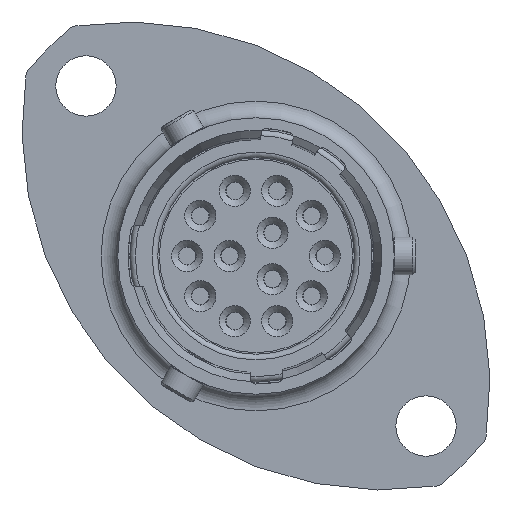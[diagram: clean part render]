
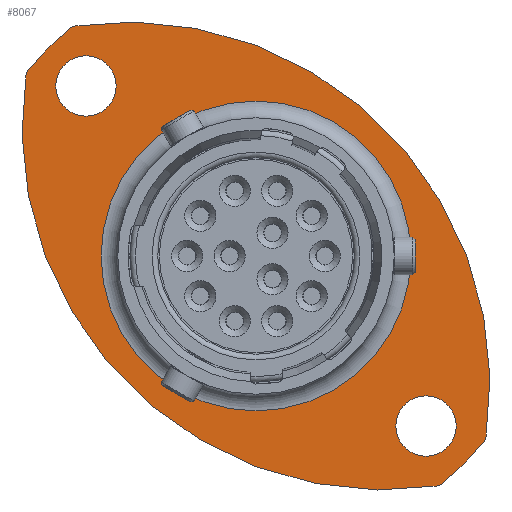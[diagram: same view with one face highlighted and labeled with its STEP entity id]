
A CAD part, left-side view. The second image highlights one B-rep face of the part: STEP entity #8067.
In plain terms, the highlighted planar face has unit normal (-1, 0, 0).
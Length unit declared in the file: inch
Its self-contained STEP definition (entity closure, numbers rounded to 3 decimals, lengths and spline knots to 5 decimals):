
#315=PLANE('',#9142);
#416=FACE_BOUND('',#1296,.T.);
#417=FACE_BOUND('',#1297,.T.);
#418=FACE_BOUND('',#1298,.T.);
#748=FACE_OUTER_BOUND('',#1295,.T.);
#1295=EDGE_LOOP('',(#6197,#6198,#6199,#6200));
#1296=EDGE_LOOP('',(#6201));
#1297=EDGE_LOOP('',(#6202));
#1298=EDGE_LOOP('',(#6203));
#2155=CIRCLE('',#9112,0.76772);
#2174=CIRCLE('',#9139,0.62303);
#2175=CIRCLE('',#9141,0.62303);
#2176=CIRCLE('',#9143,0.76772);
#2177=CIRCLE('',#9144,0.32854);
#2178=CIRCLE('',#9145,0.06398);
#2179=CIRCLE('',#9146,0.06398);
#3443=VERTEX_POINT('',#14210);
#3446=VERTEX_POINT('',#14215);
#3463=VERTEX_POINT('',#14260);
#3464=VERTEX_POINT('',#14264);
#3465=VERTEX_POINT('',#14269);
#3466=VERTEX_POINT('',#14271);
#3467=VERTEX_POINT('',#14273);
#4411=EDGE_CURVE('',#3443,#3446,#2155,.T.);
#4431=EDGE_CURVE('',#3463,#3443,#2174,.T.);
#4433=EDGE_CURVE('',#3446,#3464,#2175,.T.);
#4434=EDGE_CURVE('',#3464,#3463,#2176,.T.);
#4435=EDGE_CURVE('',#3465,#3465,#2177,.T.);
#4436=EDGE_CURVE('',#3466,#3466,#2178,.T.);
#4437=EDGE_CURVE('',#3467,#3467,#2179,.T.);
#6197=ORIENTED_EDGE('',*,*,#4434,.T.);
#6198=ORIENTED_EDGE('',*,*,#4431,.T.);
#6199=ORIENTED_EDGE('',*,*,#4411,.T.);
#6200=ORIENTED_EDGE('',*,*,#4433,.T.);
#6201=ORIENTED_EDGE('',*,*,#4435,.T.);
#6202=ORIENTED_EDGE('',*,*,#4436,.F.);
#6203=ORIENTED_EDGE('',*,*,#4437,.F.);
#8067=ADVANCED_FACE('',(#748,#416,#417,#418),#315,.F.);
#9112=AXIS2_PLACEMENT_3D('',#14217,#11415,#11416);
#9139=AXIS2_PLACEMENT_3D('',#14262,#11470,#11471);
#9141=AXIS2_PLACEMENT_3D('',#14266,#11475,#11476);
#9142=AXIS2_PLACEMENT_3D('',#14267,#11477,#11478);
#9143=AXIS2_PLACEMENT_3D('',#14268,#11479,#11480);
#9144=AXIS2_PLACEMENT_3D('',#14270,#11481,#11482);
#9145=AXIS2_PLACEMENT_3D('',#14272,#11483,#11484);
#9146=AXIS2_PLACEMENT_3D('',#14274,#11485,#11486);
#11415=DIRECTION('center_axis',(-1.,0.,0.));
#11416=DIRECTION('ref_axis',(0.,0.,-1.));
#11470=DIRECTION('center_axis',(-1.,0.,0.));
#11471=DIRECTION('ref_axis',(0.,0.,1.));
#11475=DIRECTION('center_axis',(-1.,0.,0.));
#11476=DIRECTION('ref_axis',(0.,0.,1.));
#11477=DIRECTION('center_axis',(1.,0.,0.));
#11478=DIRECTION('ref_axis',(0.,0.,-1.));
#11479=DIRECTION('center_axis',(-1.,0.,0.));
#11480=DIRECTION('ref_axis',(0.,0.,-1.));
#11481=DIRECTION('center_axis',(1.,0.,0.));
#11482=DIRECTION('ref_axis',(0.,0.,-1.));
#11483=DIRECTION('center_axis',(-1.,0.,0.));
#11484=DIRECTION('ref_axis',(0.,0.,-1.));
#11485=DIRECTION('center_axis',(-1.,0.,0.));
#11486=DIRECTION('ref_axis',(0.,0.,-1.));
#14210=CARTESIAN_POINT('',(0.43089,-0.24749,-0.44649));
#14215=CARTESIAN_POINT('',(0.43089,0.62801,0.42901));
#14217=CARTESIAN_POINT('Origin',(0.43089,0.51131,-0.32979));
#14260=CARTESIAN_POINT('',(0.43089,-0.14825,-0.54573));
#14262=CARTESIAN_POINT('Origin',(0.43089,0.23988,-0.05836));
#14264=CARTESIAN_POINT('',(0.43089,0.72725,0.32977));
#14266=CARTESIAN_POINT('Origin',(0.43089,0.23988,-0.05836));
#14267=CARTESIAN_POINT('Origin',(0.43089,0.53299,-0.05836));
#14268=CARTESIAN_POINT('Origin',(0.43089,-0.03155,
0.21307));
#14269=CARTESIAN_POINT('',(0.43089,0.23988,0.27018));
#14270=CARTESIAN_POINT('Origin',(0.43089,0.23988,-0.05836));
#14271=CARTESIAN_POINT('',(0.43089,0.60039,0.36613));
#14272=CARTESIAN_POINT('Origin',(0.43089,0.60039,0.30215));
#14273=CARTESIAN_POINT('',(0.43089,-0.12063,-0.3549));
#14274=CARTESIAN_POINT('Origin',(0.43089,-0.12063,-0.41887));
